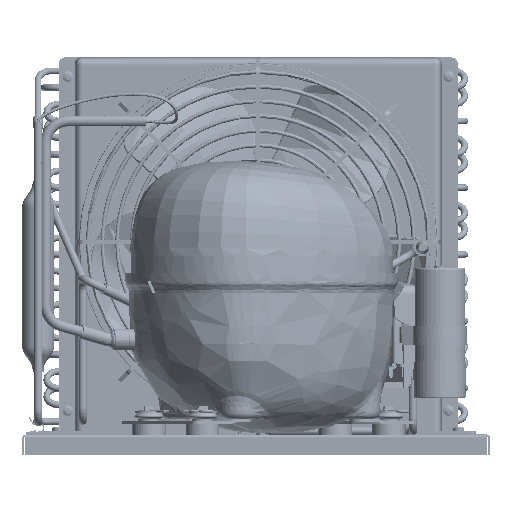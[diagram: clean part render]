
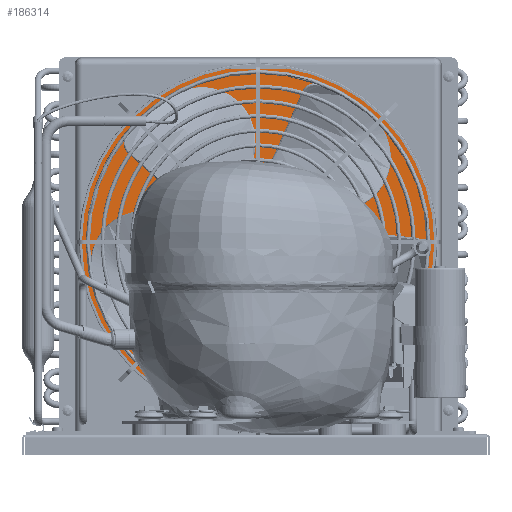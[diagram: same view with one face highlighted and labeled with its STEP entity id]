
A CAD part, front view. The second image highlights one B-rep face of the part: STEP entity #186314.
In plain terms, the highlighted planar face has unit normal (0, -1, 0) as drawn and (-1, 0, 0) by its records, which use the part's own axes.
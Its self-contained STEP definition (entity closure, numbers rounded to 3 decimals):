
#18680=LINE('',#315974,#29478);
#18681=LINE('',#315977,#29479);
#18682=LINE('',#315979,#29480);
#18683=LINE('',#315981,#29481);
#29478=VECTOR('',#273237,1000.);
#29479=VECTOR('',#273238,1000.);
#29480=VECTOR('',#273239,1000.);
#29481=VECTOR('',#273240,1000.);
#41394=ORIENTED_EDGE('',*,*,#98776,.T.);
#41395=ORIENTED_EDGE('',*,*,#98777,.F.);
#41396=ORIENTED_EDGE('',*,*,#98778,.F.);
#41397=ORIENTED_EDGE('',*,*,#98779,.T.);
#98776=EDGE_CURVE('',#127695,#127696,#18680,.T.);
#98777=EDGE_CURVE('',#127697,#127696,#18681,.T.);
#98778=EDGE_CURVE('',#127698,#127697,#18682,.T.);
#98779=EDGE_CURVE('',#127698,#127695,#18683,.T.);
#127695=VERTEX_POINT('',#315975);
#127696=VERTEX_POINT('',#315976);
#127697=VERTEX_POINT('',#315978);
#127698=VERTEX_POINT('',#315980);
#153394=EDGE_LOOP('',(#41394,#41395,#41396,#41397));
#167331=FACE_BOUND('',#153394,.T.);
#180423=PLANE('',#255973);
#186314=ADVANCED_FACE('',(#167331),#180423,.F.);
#255973=AXIS2_PLACEMENT_3D('',#315973,#273235,#273236);
#273235=DIRECTION('',(1.,0.,0.));
#273236=DIRECTION('',(0.,0.,-1.));
#273237=DIRECTION('',(0.,0.,-1.));
#273238=DIRECTION('',(0.,1.,0.));
#273239=DIRECTION('',(0.,0.,-1.));
#273240=DIRECTION('',(0.,1.,0.));
#315973=CARTESIAN_POINT('',(-18.75,-135.,137.5));
#315974=CARTESIAN_POINT('',(-18.75,135.,137.5));
#315975=CARTESIAN_POINT('',(-18.75,135.,137.5));
#315976=CARTESIAN_POINT('',(-18.75,135.,-137.5));
#315977=CARTESIAN_POINT('',(-18.75,-135.,-137.5));
#315978=CARTESIAN_POINT('',(-18.75,-135.,-137.5));
#315979=CARTESIAN_POINT('',(-18.75,-135.,137.5));
#315980=CARTESIAN_POINT('',(-18.75,-135.,137.5));
#315981=CARTESIAN_POINT('',(-18.75,-135.,137.5));
